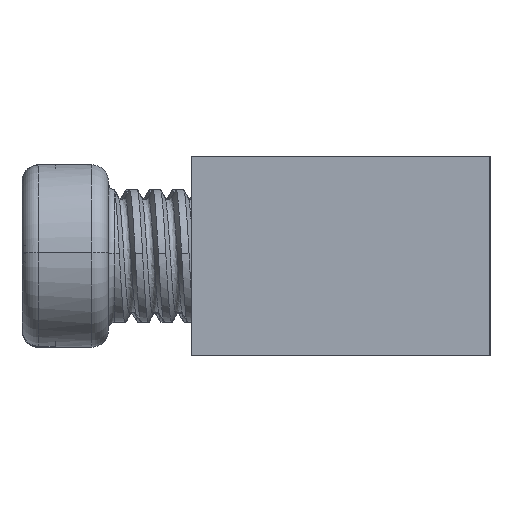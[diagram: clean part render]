
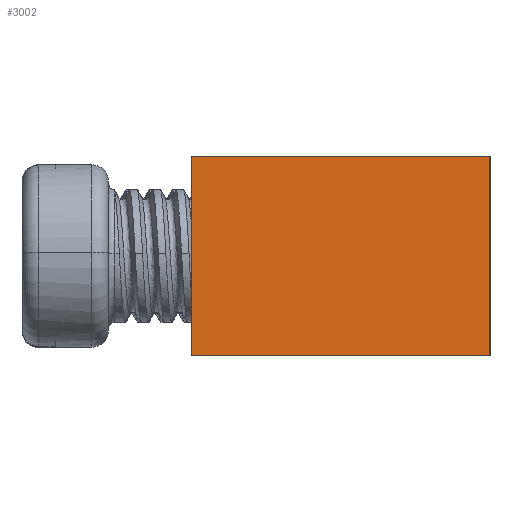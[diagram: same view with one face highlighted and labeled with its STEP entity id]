
A CAD part, left-side view. The second image highlights one B-rep face of the part: STEP entity #3002.
In plain terms, the highlighted planar face has unit normal (-1, 0, 0).
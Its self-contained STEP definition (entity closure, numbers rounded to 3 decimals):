
#35 = LINE ( 'NONE', #663, #4683 ) ;
#218 = CARTESIAN_POINT ( 'NONE',  ( 0., 0., -6. ) ) ;
#415 = LINE ( 'NONE', #5514, #2590 ) ;
#663 = CARTESIAN_POINT ( 'NONE',  ( 0., 9., -6. ) ) ;
#674 = CARTESIAN_POINT ( 'NONE',  ( 0., 0., -6. ) ) ;
#677 = EDGE_CURVE ( 'NONE', #11670, #7060, #35, .T. ) ;
#808 = ORIENTED_EDGE ( 'NONE', *, *, #677, .F. ) ;
#870 = ORIENTED_EDGE ( 'NONE', *, *, #11645, .T. ) ;
#1126 = VERTEX_POINT ( 'NONE', #9956 ) ;
#1133 = DIRECTION ( 'NONE',  ( -1., 0., 0. ) ) ;
#1270 = EDGE_LOOP ( 'NONE', ( #2618, #808, #870, #1625 ) ) ;
#1625 = ORIENTED_EDGE ( 'NONE', *, *, #9324, .T. ) ;
#2379 = DIRECTION ( 'NONE',  ( 0., -1., 0. ) ) ;
#2590 = VECTOR ( 'NONE', #4602, 1000. ) ;
#2618 = ORIENTED_EDGE ( 'NONE', *, *, #10131, .F. ) ;
#3002 = ADVANCED_FACE ( 'NONE', ( #4826 ), #5756, .T. ) ;
#3478 = CARTESIAN_POINT ( 'NONE',  ( 0., 9., -6. ) ) ;
#3897 = VECTOR ( 'NONE', #11363, 1000. ) ;
#4602 = DIRECTION ( 'NONE',  ( 0., 0., 1. ) ) ;
#4683 = VECTOR ( 'NONE', #5297, 1000. ) ;
#4826 = FACE_OUTER_BOUND ( 'NONE', #1270, .T. ) ;
#5297 = DIRECTION ( 'NONE',  ( 0., 0., 1. ) ) ;
#5514 = CARTESIAN_POINT ( 'NONE',  ( 0., 0., -6. ) ) ;
#5756 = PLANE ( 'NONE',  #7278 ) ;
#5832 = VERTEX_POINT ( 'NONE', #674 ) ;
#6136 = LINE ( 'NONE', #11662, #8340 ) ;
#6674 = CARTESIAN_POINT ( 'NONE',  ( 0., 9., 0. ) ) ;
#7060 = VERTEX_POINT ( 'NONE', #6674 ) ;
#7278 = AXIS2_PLACEMENT_3D ( 'NONE', #218, #1133, #7652 ) ;
#7652 = DIRECTION ( 'NONE',  ( 0., 0., 1. ) ) ;
#8340 = VECTOR ( 'NONE', #2379, 1000. ) ;
#8529 = LINE ( 'NONE', #9542, #3897 ) ;
#9324 = EDGE_CURVE ( 'NONE', #5832, #1126, #415, .T. ) ;
#9542 = CARTESIAN_POINT ( 'NONE',  ( 0., 0., 0. ) ) ;
#9956 = CARTESIAN_POINT ( 'NONE',  ( 0., 0., 0. ) ) ;
#10131 = EDGE_CURVE ( 'NONE', #7060, #1126, #8529, .T. ) ;
#11363 = DIRECTION ( 'NONE',  ( 0., -1., 0. ) ) ;
#11645 = EDGE_CURVE ( 'NONE', #11670, #5832, #6136, .T. ) ;
#11662 = CARTESIAN_POINT ( 'NONE',  ( 0., 0., -6. ) ) ;
#11670 = VERTEX_POINT ( 'NONE', #3478 ) ;
